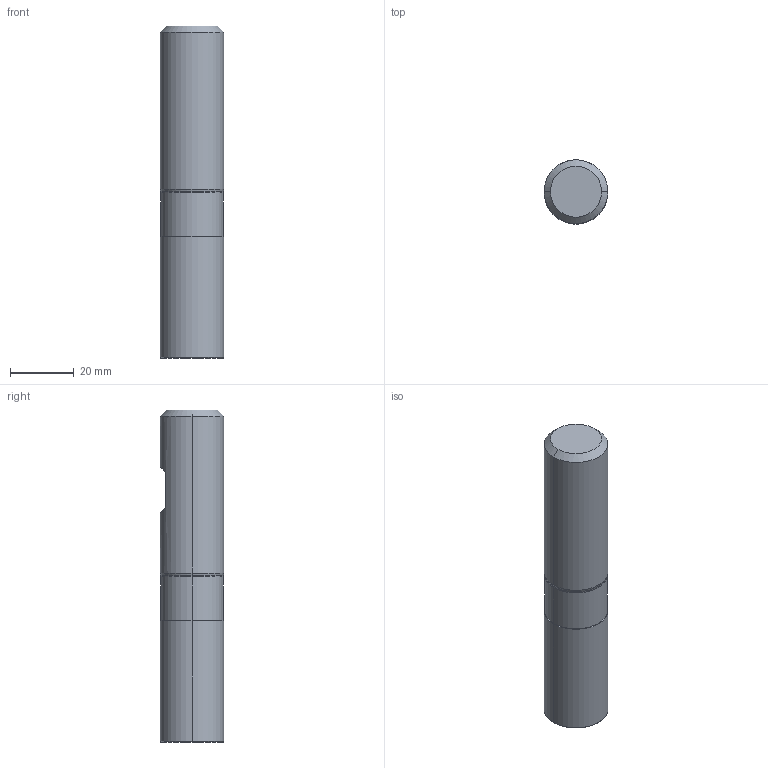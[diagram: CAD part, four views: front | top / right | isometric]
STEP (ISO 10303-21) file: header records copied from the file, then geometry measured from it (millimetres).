
FILE_DESCRIPTION (( 'STEP AP214' ), '1' );
FILE_NAME ('2.403.200.10_3D-model.step', '2022-02-15T18:34:52', ( '' ), ( '' ), 'SwSTEP 2.0', 'SolidWorks 2020', '' );
FILE_SCHEMA (( 'AUTOMOTIVE_DESIGN' ));
Length unit declared in the file: millimetre
Products named in the file (3): 2.403.200.10_3D-model; CUT-3D^Baugr57; NOCUT-3D^Baugr57
Assembly tree (2 placements, depth 2):
  2.403.200.10_3D-model
    CUT-3D^Baugr57
    NOCUT-3D^Baugr57
Bounding box: 20 x 20 x 104 mm (x, y, z)
Volume: 32155.4 mm3; surface area: 7671 mm2
Topology: 2 solids, 2 shells, 21 faces, 38 edges, 22 vertices
Faces by surface type: plane 7, cylinder 6, cone 6, torus 2
Entity records: 634 total; most frequent: DIRECTION 114, CARTESIAN_POINT 95, ORIENTED_EDGE 76, AXIS2_PLACEMENT_3D 49, EDGE_CURVE 38, EDGE_LOOP 22, VERTEX_POINT 22, ADVANCED_FACE 21
